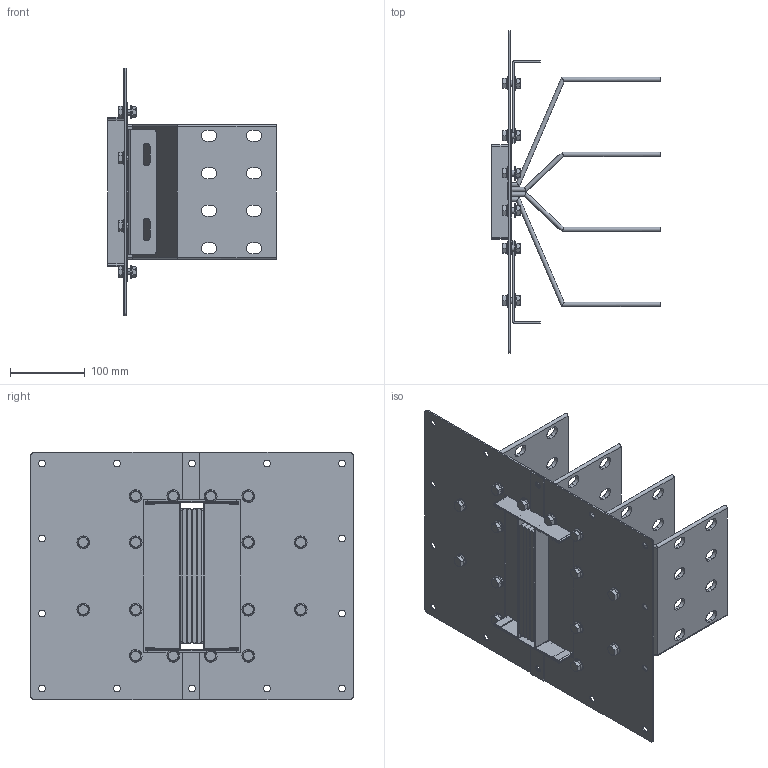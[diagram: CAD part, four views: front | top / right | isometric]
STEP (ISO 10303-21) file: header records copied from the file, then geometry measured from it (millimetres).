
FILE_DESCRIPTION(('CATIA V5 STEP','CAx-IF Rec.Pracs.--- Model Styling and Organization---1.5--- 2016-08-15','CAx-IF Rec.Pracs.---Supplemental Geometry---1.0---2011-11-01','CAx-IF Rec.Pracs.--- Composite Materials ---1.1---2010-07-15'),'2;1');
FILE_NAME('K:\COSCN 2011\32372311_RiduzioneSezioniBarre\03_Studio\__Modelli semplificati\XCP_UB semplificati per studi\XCP-HP_UB_4C_Pe_STD_Assieme\Al\XCP-HP_UB_4C_Pe_S_Assieme - 1600A Al\XCP-HP_UB_4C_Pe_S_Assieme - 1600A Al.stp','2025-05-12T09:34:00+00:00',('Utente Bticino'),('Bticino S.p.A.'),'CATIA Version 5-6 Release 2020 SP5','CATIA V5 STEP AP214 v2','none');
FILE_SCHEMA(('AUTOMOTIVE_DESIGN { 1 0 10303 214 1 1 1 1 }'));
Length unit declared in the file: millimetre
Products named in the file (7): XCP-HP_UB_4C_Pe_S_Assieme - 1600A Al; XCP-HP_UB_4C_Pe_S_PaccoBarre_1600A Al; XCP-HP_UB_4C_Pe_S_Lamiere_1600A Al; Viteria UB H130; Ass Vite+dado M8; Steel hex flanged SCREW M12x16; Steel hex flanged NUT M8
Assembly tree (21 placements, depth 4):
  XCP-HP_UB_4C_Pe_S_Assieme - 1600A Al
    XCP-HP_UB_4C_Pe_S_PaccoBarre_1600A Al
    XCP-HP_UB_4C_Pe_S_Lamiere_1600A Al
    Viteria UB H130
      Ass Vite+dado M8  x16
        Steel hex flanged SCREW M12x16
        Steel hex flanged NUT M8
Bounding box: 225 x 430 x 330 mm (x, y, z)
Volume: 1576277.3 mm3; surface area: 897024.5 mm2
Topology: 44 solids, 44 shells, 1204 faces, 2988 edges, 1904 vertices
Faces by surface type: plane 512, cylinder 404, cone 128, bspline 128, torus 32
Entity records: 16772 total; most frequent: CARTESIAN_POINT 3808, ORIENTED_EDGE 2796, DIRECTION 2184, EDGE_CURVE 1398, VERTEX_POINT 914, AXIS2_PLACEMENT_3D 910, VECTOR 848, LINE 848
